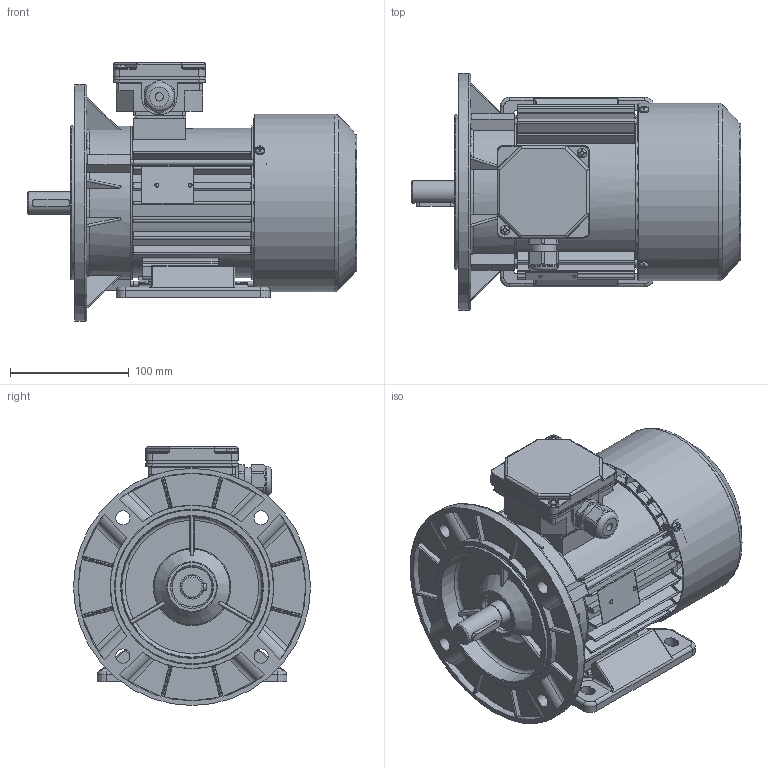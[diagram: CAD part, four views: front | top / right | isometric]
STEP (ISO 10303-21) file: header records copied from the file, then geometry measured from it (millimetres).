
FILE_DESCRIPTION( ( 'Unknown' ), '1' );
FILE_NAME( 'G:/Poczta Tk-1/STP/w.m.80/Sh80/SLh80-.B.stp', 'Unknown', ( 'K. Szlosek' ), ( 'BESEL S.A.' ), 'PSStep 17.0.49', 'Unknown', ' ' );
FILE_SCHEMA( ( 'AUTOMOTIVE_DESIGN { 1 0 10303 214 1 1 1 1 }' ) );
Length unit declared in the file: millimetre
Products named in the file (30): skrznka zaciskowa trójfazowa ; K4-2820 Uszczelka nr 2 Sh71,80; Dławnica M20x1,5; K2-0859 Podstawa skrzynki 6-cio zaciskowej; K2-0860 Pokrywka skrzynki zaciskowej; Assem1; K1-1257 Kadłub S(E,M)h80-A i B; K3-2964 Osłona przewietrznika Sh80,90; K4-2320 Uszczelka nr 1 Sh71,80; K3-4616 wał standard Sh80-B; K3-6857 Tarcza łożyskowa P S(E,M)h80-B,D; K1-1258  zmiana Tarcza kołnierzowa B5 SKh80-..; Wkręt samogwintujący M4x8; Wpust A6x6x32; Wkręt samogwintujący M4x16; Nitokołek A 2x6; K3-4025 Przewietrznik Sg,h80; Tabliczka znamionowa 32x44; Łożysko 6204; Śruba ściągająca E_M5x130; K1-0437 Łapa Sh80-.. 
Assembly tree (45 placements, depth 3):
  Assem1
    K1-1257 Kadłub S(E,M)h80-A i B
    K3-2964 Osłona przewietrznika Sh80,90
    K4-2320 Uszczelka nr 1 Sh71,80
    K3-4616 wał standard Sh80-B
    K3-6857 Tarcza łożyskowa P S(E,M)h80-B,D
    K1-1258  zmiana Tarcza kołnierzowa B5 SKh80-..
    Wkręt samogwintujący M4x8  x3
    Wpust A6x6x32
    Wkręt samogwintujący M4x16  x2
    Nitokołek A 2x6  x2
    K3-4025 Przewietrznik Sg,h80
    Tabliczka znamionowa 32x44
    Łożysko 6204  x2
    Łożysko 6204  x2
    Łożysko 6204  x2
    Łożysko 6204  x2
    Łożysko 6204  x2
    Łożysko 6204  x2
    Łożysko 6204  x2
    Łożysko 6204  x2
    Łożysko 6204  x2
    Łożysko 6204  x2
    Śruba ściągająca E_M5x130  x3
    K1-0437 Łapa Sh80-.. 
    skrznka zaciskowa trójfazowa 
      K4-2820 Uszczelka nr 2 Sh71,80
      Dławnica M20x1,5
      K2-0859 Podstawa skrzynki 6-cio zaciskowej
      K2-0860 Pokrywka skrzynki zaciskowej
Bounding box: 277.8 x 200 x 218.5 mm (x, y, z)
Volume: 1097874.4 mm3; surface area: 608566.5 mm2
Topology: 44 solids, 60 shells, 2721 faces, 7448 edges, 4826 vertices
Faces by surface type: plane 1326, cylinder 907, torus 200, cone 139, bspline 113, sphere 36
Full cylindrical faces by diameter (mm): 2 x2, 2.4 x2, 3.7 x11, 4 x6, 4.134 x3, 4.5 x1, 4.6 x3, 4.8 x4, 5 x7, 5.5 x3, 6.5 x4, 7 x1, 8 x9, 12 x4, 18.376 x1, 18.38 x1, 19 x1, 19.3 x1, 19.5 x1, 19.9 x1, 20 x3, 20.3 x2, 20.4 x4, 22.3 x1, 25 x1, 25.5 x1, 26 x2, 26.1 x1, 27 x1, 28.802 x4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
Entity records: 135266 total; most frequent: CARTESIAN_POINT 50247, ORIENTED_EDGE 13452, DIRECTION 13069, EDGE_CURVE 6726, AXIS2_PLACEMENT_3D 4770, VERTEX_POINT 4501, LINE 3529, VECTOR 3529
